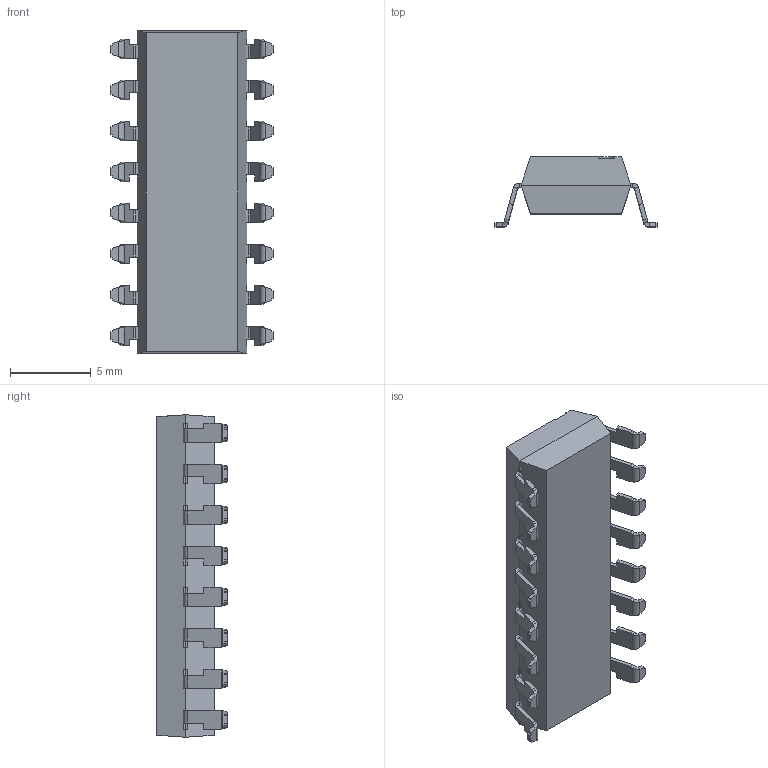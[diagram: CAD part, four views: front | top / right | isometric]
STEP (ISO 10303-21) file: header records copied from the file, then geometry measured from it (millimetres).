
FILE_DESCRIPTION (( 'STEP AP214' ), '1' );
FILE_NAME ('DIP16-OP7.STEP', '2015-12-12T20:56:56', ( '' ), ( '' ), 'SwSTEP 2.0', 'SolidWorks 2015', '' );
FILE_SCHEMA (( 'AUTOMOTIVE_DESIGN' ));
Length unit declared in the file: millimetre
Products named in the file (2): DIP16-OP7
Bounding box: 10.16 x 4.36 x 20 mm (x, y, z)
Volume: 510.3 mm3; surface area: 1291.8 mm2
Topology: 4 solids, 4 shells, 498 faces, 1214 edges, 724 vertices
Faces by surface type: plane 401, cylinder 65, bspline 32
Entity records: 14662 total; most frequent: CARTESIAN_POINT 3212, ORIENTED_EDGE 2428, DIRECTION 2086, EDGE_CURVE 1214, LINE 1018, VECTOR 1018, VERTEX_POINT 724, AXIS2_PLACEMENT_3D 534
